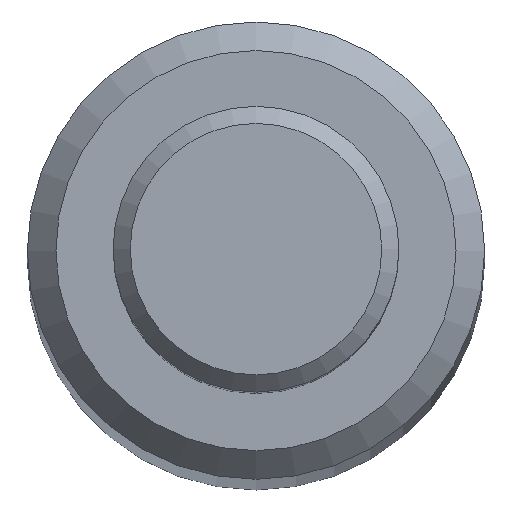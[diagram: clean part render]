
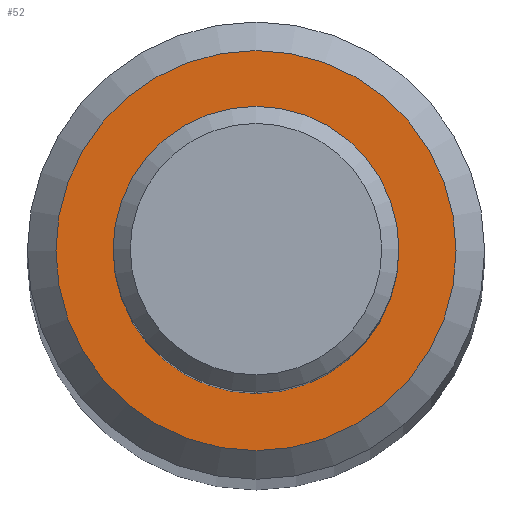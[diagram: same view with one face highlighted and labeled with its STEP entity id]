
A CAD part, top view. The second image highlights one B-rep face of the part: STEP entity #52.
In plain terms, the highlighted planar face has unit normal (0, 0, 1).
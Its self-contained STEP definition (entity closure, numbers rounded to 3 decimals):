
#52=ADVANCED_FACE('',(#70,#71),#65,.T.);
#65=PLANE('',#179);
#70=FACE_BOUND('',#92,.T.);
#71=FACE_BOUND('',#93,.T.);
#92=EDGE_LOOP('',(#116));
#93=EDGE_LOOP('',(#117));
#116=ORIENTED_EDGE('',*,*,#152,.T.);
#117=ORIENTED_EDGE('',*,*,#153,.F.);
#140=VERTEX_POINT('',#256);
#141=VERTEX_POINT('',#258);
#152=EDGE_CURVE('',#140,#140,#164,.T.);
#153=EDGE_CURVE('',#141,#141,#165,.T.);
#164=CIRCLE('',#177,3.5);
#165=CIRCLE('',#178,2.5);
#177=AXIS2_PLACEMENT_3D('',#255,#204,#205);
#178=AXIS2_PLACEMENT_3D('',#257,#206,#207);
#179=AXIS2_PLACEMENT_3D('',#259,#208,#209);
#204=DIRECTION('',(0.,0.,1.));
#205=DIRECTION('',(1.,0.,0.));
#206=DIRECTION('',(0.,0.,1.));
#207=DIRECTION('',(1.,0.,0.));
#208=DIRECTION('',(0.,0.,1.));
#209=DIRECTION('',(1.,0.,0.));
#255=CARTESIAN_POINT('',(0.,0.,108.));
#256=CARTESIAN_POINT('',(3.5,0.,108.));
#257=CARTESIAN_POINT('',(0.,0.,108.));
#258=CARTESIAN_POINT('',(2.5,0.,108.));
#259=CARTESIAN_POINT('',(0.,0.,108.));
